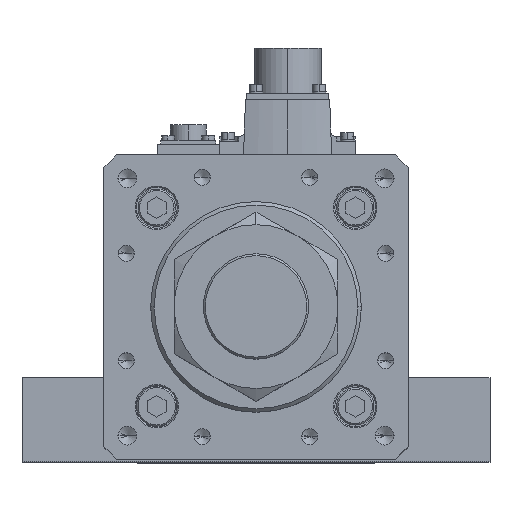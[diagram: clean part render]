
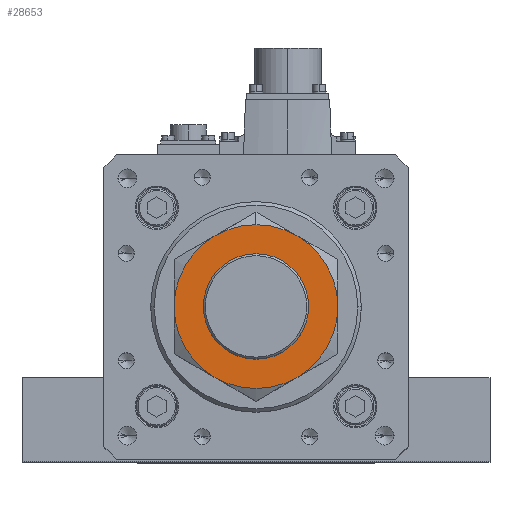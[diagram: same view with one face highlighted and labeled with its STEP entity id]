
A CAD part, top view. The second image highlights one B-rep face of the part: STEP entity #28653.
In plain terms, the highlighted planar face has unit normal (0, 0, 1).
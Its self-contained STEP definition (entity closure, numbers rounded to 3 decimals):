
#257 = AXIS2_PLACEMENT_3D ( 'NONE', #11192, #27124, #40017 ) ;
#1057 = VERTEX_POINT ( 'NONE', #39321 ) ;
#1418 = CARTESIAN_POINT ( 'NONE',  ( 0., 35., 27. ) ) ;
#1653 = EDGE_CURVE ( 'NONE', #27929, #1057, #20560, .T. ) ;
#1716 = DIRECTION ( 'NONE',  ( 0., 0., 1. ) ) ;
#2606 = DIRECTION ( 'NONE',  ( 0., 1., 0. ) ) ;
#2984 = CARTESIAN_POINT ( 'NONE',  ( 0., 0., 27. ) ) ;
#4038 = VERTEX_POINT ( 'NONE', #21718 ) ;
#4589 = FACE_BOUND ( 'NONE', #38303, .T. ) ;
#4882 = EDGE_CURVE ( 'NONE', #9773, #25557, #34492, .T. ) ;
#5452 = ORIENTED_EDGE ( 'NONE', *, *, #9003, .F. ) ;
#7270 = ORIENTED_EDGE ( 'NONE', *, *, #21254, .F. ) ;
#7876 = AXIS2_PLACEMENT_3D ( 'NONE', #33146, #14382, #36274 ) ;
#9003 = EDGE_CURVE ( 'NONE', #40212, #36160, #9782, .T. ) ;
#9773 = VERTEX_POINT ( 'NONE', #22775 ) ;
#9782 = CIRCLE ( 'NONE', #35164, 35. ) ;
#10015 = VERTEX_POINT ( 'NONE', #30281 ) ;
#11192 = CARTESIAN_POINT ( 'NONE',  ( 0., 0., 27. ) ) ;
#11844 = DIRECTION ( 'NONE',  ( 0., 0., 1. ) ) ;
#11862 = CARTESIAN_POINT ( 'NONE',  ( 0., 0., 27. ) ) ;
#13375 = EDGE_CURVE ( 'NONE', #10015, #27929, #30005, .T. ) ;
#13954 = ORIENTED_EDGE ( 'NONE', *, *, #13375, .F. ) ;
#14382 = DIRECTION ( 'NONE',  ( 0., 0., -1. ) ) ;
#14459 = EDGE_CURVE ( 'NONE', #25557, #9773, #37336, .T. ) ;
#15545 = DIRECTION ( 'NONE',  ( 0., 1., 0. ) ) ;
#16734 = AXIS2_PLACEMENT_3D ( 'NONE', #19099, #18961, #37405 ) ;
#17256 = AXIS2_PLACEMENT_3D ( 'NONE', #30151, #11844, #17734 ) ;
#17293 = FACE_OUTER_BOUND ( 'NONE', #29966, .T. ) ;
#17552 = CARTESIAN_POINT ( 'NONE',  ( 0., 0., 27. ) ) ;
#17559 = EDGE_CURVE ( 'NONE', #1057, #17729, #27273, .T. ) ;
#17729 = VERTEX_POINT ( 'NONE', #19750 ) ;
#17734 = DIRECTION ( 'NONE',  ( 1., 0., 0. ) ) ;
#18385 = ORIENTED_EDGE ( 'NONE', *, *, #17559, .F. ) ;
#18961 = DIRECTION ( 'NONE',  ( 0., 0., -1. ) ) ;
#19099 = CARTESIAN_POINT ( 'NONE',  ( 0., 0., 27. ) ) ;
#19750 = CARTESIAN_POINT ( 'NONE',  ( -35., 0., 27. ) ) ;
#20560 = CIRCLE ( 'NONE', #7876, 35. ) ;
#20673 = DIRECTION ( 'NONE',  ( 0., 0., -1. ) ) ;
#21037 = ORIENTED_EDGE ( 'NONE', *, *, #21375, .F. ) ;
#21254 = EDGE_CURVE ( 'NONE', #36160, #4038, #24738, .T. ) ;
#21375 = EDGE_CURVE ( 'NONE', #17729, #40212, #23759, .T. ) ;
#21470 = AXIS2_PLACEMENT_3D ( 'NONE', #30239, #1716, #30086 ) ;
#21718 = CARTESIAN_POINT ( 'NONE',  ( 17.5, 30.311, 27. ) ) ;
#22201 = DIRECTION ( 'NONE',  ( 0., 1., 0. ) ) ;
#22538 = ORIENTED_EDGE ( 'NONE', *, *, #33564, .F. ) ;
#22775 = CARTESIAN_POINT ( 'NONE',  ( -22.5, 0., 27. ) ) ;
#23759 = CIRCLE ( 'NONE', #16734, 35. ) ;
#24399 = CARTESIAN_POINT ( 'NONE',  ( 0., 0., 27. ) ) ;
#24738 = CIRCLE ( 'NONE', #32179, 35. ) ;
#24821 = DIRECTION ( 'NONE',  ( 0., 0., -1. ) ) ;
#25197 = AXIS2_PLACEMENT_3D ( 'NONE', #2984, #40520, #22201 ) ;
#25557 = VERTEX_POINT ( 'NONE', #35809 ) ;
#25835 = AXIS2_PLACEMENT_3D ( 'NONE', #17552, #20673, #26923 ) ;
#26031 = ORIENTED_EDGE ( 'NONE', *, *, #4882, .F. ) ;
#26617 = ORIENTED_EDGE ( 'NONE', *, *, #1653, .F. ) ;
#26904 = CARTESIAN_POINT ( 'NONE',  ( 0., 0., 27. ) ) ;
#26923 = DIRECTION ( 'NONE',  ( 0., 1., 0. ) ) ;
#27124 = DIRECTION ( 'NONE',  ( 0., 0., 1. ) ) ;
#27273 = CIRCLE ( 'NONE', #25197, 35. ) ;
#27929 = VERTEX_POINT ( 'NONE', #34619 ) ;
#28653 = ADVANCED_FACE ( 'NONE', ( #17293, #4589 ), #29889, .T. ) ;
#29889 = PLANE ( 'NONE',  #257 ) ;
#29966 = EDGE_LOOP ( 'NONE', ( #13954, #22538, #7270, #5452, #21037, #18385, #26617 ) ) ;
#30005 = CIRCLE ( 'NONE', #25835, 35. ) ;
#30068 = DIRECTION ( 'NONE',  ( 0., 0., -1. ) ) ;
#30086 = DIRECTION ( 'NONE',  ( 1., 0., 0. ) ) ;
#30151 = CARTESIAN_POINT ( 'NONE',  ( 0., 0., 27. ) ) ;
#30239 = CARTESIAN_POINT ( 'NONE',  ( 0., 0., 27. ) ) ;
#30281 = CARTESIAN_POINT ( 'NONE',  ( 35., 0., 27. ) ) ;
#32179 = AXIS2_PLACEMENT_3D ( 'NONE', #11862, #24821, #15545 ) ;
#33146 = CARTESIAN_POINT ( 'NONE',  ( 0., 0., 27. ) ) ;
#33564 = EDGE_CURVE ( 'NONE', #4038, #10015, #39929, .T. ) ;
#33654 = CARTESIAN_POINT ( 'NONE',  ( -17.5, 30.311, 27. ) ) ;
#34268 = DIRECTION ( 'NONE',  ( 0., 0., -1. ) ) ;
#34492 = CIRCLE ( 'NONE', #21470, 22.5 ) ;
#34619 = CARTESIAN_POINT ( 'NONE',  ( 17.5, -30.311, 27. ) ) ;
#35164 = AXIS2_PLACEMENT_3D ( 'NONE', #26904, #30068, #39525 ) ;
#35809 = CARTESIAN_POINT ( 'NONE',  ( 22.5, 0., 27. ) ) ;
#35888 = AXIS2_PLACEMENT_3D ( 'NONE', #24399, #34268, #2606 ) ;
#36160 = VERTEX_POINT ( 'NONE', #1418 ) ;
#36274 = DIRECTION ( 'NONE',  ( 0., 1., 0. ) ) ;
#37181 = ORIENTED_EDGE ( 'NONE', *, *, #14459, .F. ) ;
#37336 = CIRCLE ( 'NONE', #17256, 22.5 ) ;
#37405 = DIRECTION ( 'NONE',  ( 0., 1., 0. ) ) ;
#38303 = EDGE_LOOP ( 'NONE', ( #26031, #37181 ) ) ;
#39321 = CARTESIAN_POINT ( 'NONE',  ( -17.5, -30.311, 27. ) ) ;
#39525 = DIRECTION ( 'NONE',  ( 0., 1., 0. ) ) ;
#39929 = CIRCLE ( 'NONE', #35888, 35. ) ;
#40017 = DIRECTION ( 'NONE',  ( 1., 0., 0. ) ) ;
#40212 = VERTEX_POINT ( 'NONE', #33654 ) ;
#40520 = DIRECTION ( 'NONE',  ( 0., 0., -1. ) ) ;
